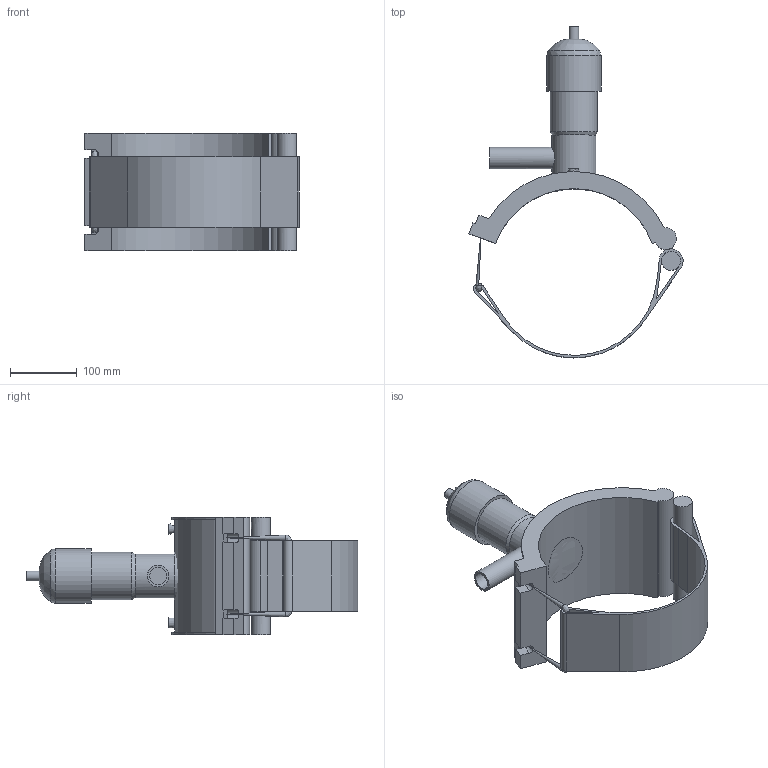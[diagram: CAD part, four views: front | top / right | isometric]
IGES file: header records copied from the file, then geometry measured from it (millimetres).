
Global section: file name: 495404250032.ipt; native system: Autodesk Inventor 2015; preprocessor: unknown; author: KIM; date: 20171106.094322; units: millimetre
Bounding box: 321.09 x 497.75 x 176 mm (x, y, z)
Volume: 2757870.5 mm3; surface area: 390669.3 mm2
Topology: 2 solids, 4 shells, 81 faces, 196 edges, 130 vertices
Faces by surface type: plane 45, cylinder 20, revolution 13, cone 3
Full cylindrical faces by diameter (mm): 4 x2, 8.5 x2, 14.64 x1, 28.462 x1, 32 x1, 65.88 x1, 70.76 x1, 73.2 x1, 81.333 x1
